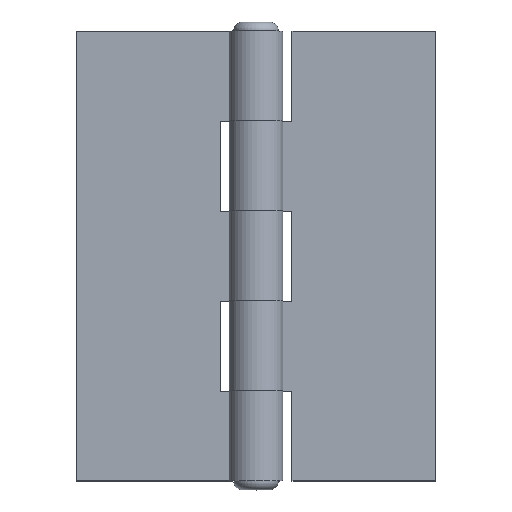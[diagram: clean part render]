
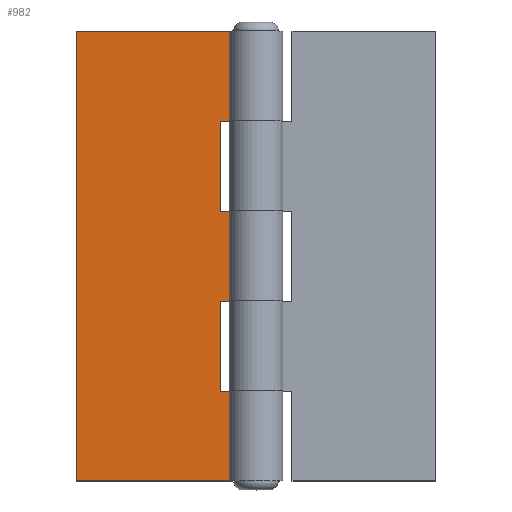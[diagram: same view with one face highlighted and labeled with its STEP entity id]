
A CAD part, top view. The second image highlights one B-rep face of the part: STEP entity #982.
In plain terms, the highlighted planar face has unit normal (0, 0, 1) as drawn and (0, 1, 0) by its records, which use the part's own axes.
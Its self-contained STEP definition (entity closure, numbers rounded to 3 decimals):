
#134=FACE_OUTER_BOUND('',#190,.T.);
#190=EDGE_LOOP('',(#819,#820,#821,#822,#823,#824,#825,#826,#827,#828,#829,
#830));
#259=LINE('',#1584,#353);
#263=LINE('',#1592,#357);
#266=LINE('',#1603,#360);
#269=LINE('',#1615,#363);
#273=LINE('',#1623,#367);
#276=LINE('',#1634,#370);
#279=LINE('',#1645,#373);
#280=LINE('',#1647,#374);
#281=LINE('',#1649,#375);
#282=LINE('',#1651,#376);
#283=LINE('',#1652,#377);
#284=LINE('',#1653,#378);
#353=VECTOR('',#1282,10.);
#357=VECTOR('',#1288,1.668);
#360=VECTOR('',#1299,1.668);
#363=VECTOR('',#1310,10.);
#367=VECTOR('',#1316,1.668);
#370=VECTOR('',#1327,1.668);
#373=VECTOR('',#1338,10.);
#374=VECTOR('',#1339,17.668);
#375=VECTOR('',#1340,50.);
#376=VECTOR('',#1341,17.668);
#377=VECTOR('',#1342,10.);
#378=VECTOR('',#1343,10.);
#453=VERTEX_POINT('',#1582);
#454=VERTEX_POINT('',#1583);
#457=VERTEX_POINT('',#1591);
#461=VERTEX_POINT('',#1602);
#465=VERTEX_POINT('',#1613);
#466=VERTEX_POINT('',#1614);
#469=VERTEX_POINT('',#1622);
#473=VERTEX_POINT('',#1633);
#477=VERTEX_POINT('',#1644);
#478=VERTEX_POINT('',#1646);
#479=VERTEX_POINT('',#1648);
#480=VERTEX_POINT('',#1650);
#571=EDGE_CURVE('',#453,#454,#259,.T.);
#575=EDGE_CURVE('',#454,#457,#263,.T.);
#581=EDGE_CURVE('',#461,#453,#266,.T.);
#587=EDGE_CURVE('',#465,#466,#269,.T.);
#591=EDGE_CURVE('',#466,#469,#273,.T.);
#597=EDGE_CURVE('',#473,#465,#276,.T.);
#603=EDGE_CURVE('',#477,#457,#279,.T.);
#604=EDGE_CURVE('',#478,#477,#280,.T.);
#605=EDGE_CURVE('',#478,#479,#281,.T.);
#606=EDGE_CURVE('',#480,#479,#282,.T.);
#607=EDGE_CURVE('',#473,#480,#283,.T.);
#608=EDGE_CURVE('',#461,#469,#284,.T.);
#819=ORIENTED_EDGE('',*,*,#581,.T.);
#820=ORIENTED_EDGE('',*,*,#571,.T.);
#821=ORIENTED_EDGE('',*,*,#575,.T.);
#822=ORIENTED_EDGE('',*,*,#603,.F.);
#823=ORIENTED_EDGE('',*,*,#604,.F.);
#824=ORIENTED_EDGE('',*,*,#605,.T.);
#825=ORIENTED_EDGE('',*,*,#606,.F.);
#826=ORIENTED_EDGE('',*,*,#607,.F.);
#827=ORIENTED_EDGE('',*,*,#597,.T.);
#828=ORIENTED_EDGE('',*,*,#587,.T.);
#829=ORIENTED_EDGE('',*,*,#591,.T.);
#830=ORIENTED_EDGE('',*,*,#608,.F.);
#939=PLANE('',#1080);
#982=ADVANCED_FACE('',(#134),#939,.T.);
#1080=AXIS2_PLACEMENT_3D('',#1643,#1336,#1337);
#1282=DIRECTION('',(0.,0.,-1.));
#1288=DIRECTION('',(1.,0.,0.));
#1299=DIRECTION('',(-1.,0.,0.));
#1310=DIRECTION('',(0.,0.,-1.));
#1316=DIRECTION('',(1.,0.,0.));
#1327=DIRECTION('',(-1.,0.,0.));
#1336=DIRECTION('center_axis',(0.,1.,0.));
#1337=DIRECTION('ref_axis',(-1.,0.,0.));
#1338=DIRECTION('',(0.,0.,1.));
#1339=DIRECTION('',(1.,0.,0.));
#1340=DIRECTION('',(0.,0.,1.));
#1341=DIRECTION('',(-1.,0.,0.));
#1342=DIRECTION('',(0.,0.,1.));
#1343=DIRECTION('',(0.,0.,1.));
#1582=CARTESIAN_POINT('',(-4.,-1.,-5.));
#1583=CARTESIAN_POINT('',(-4.,-1.,-15.));
#1584=CARTESIAN_POINT('',(-4.,-1.,-2.5));
#1591=CARTESIAN_POINT('',(-2.332,-1.,-15.));
#1592=CARTESIAN_POINT('',(-3.414,-1.,-15.));
#1602=CARTESIAN_POINT('',(-2.332,-1.,-5.));
#1603=CARTESIAN_POINT('',(0.086,-1.,-5.));
#1613=CARTESIAN_POINT('',(-4.,-1.,15.));
#1614=CARTESIAN_POINT('',(-4.,-1.,5.));
#1615=CARTESIAN_POINT('',(-4.,-1.,7.5));
#1622=CARTESIAN_POINT('',(-2.332,-1.,5.));
#1623=CARTESIAN_POINT('',(-3.414,-1.,5.));
#1633=CARTESIAN_POINT('',(-2.332,-1.,15.));
#1634=CARTESIAN_POINT('',(0.086,-1.,15.));
#1643=CARTESIAN_POINT('Origin',(-2.828,-1.,0.));
#1644=CARTESIAN_POINT('',(-2.332,-1.,-25.));
#1645=CARTESIAN_POINT('',(-2.332,-1.,0.));
#1646=CARTESIAN_POINT('',(-20.,-1.,-25.));
#1647=CARTESIAN_POINT('',(-20.,-1.,-25.));
#1648=CARTESIAN_POINT('',(-20.,-1.,25.));
#1649=CARTESIAN_POINT('',(-20.,-1.,0.));
#1650=CARTESIAN_POINT('',(-2.332,-1.,25.));
#1651=CARTESIAN_POINT('',(-2.828,-1.,25.));
#1652=CARTESIAN_POINT('',(-2.332,-1.,0.));
#1653=CARTESIAN_POINT('',(-2.332,-1.,0.));
